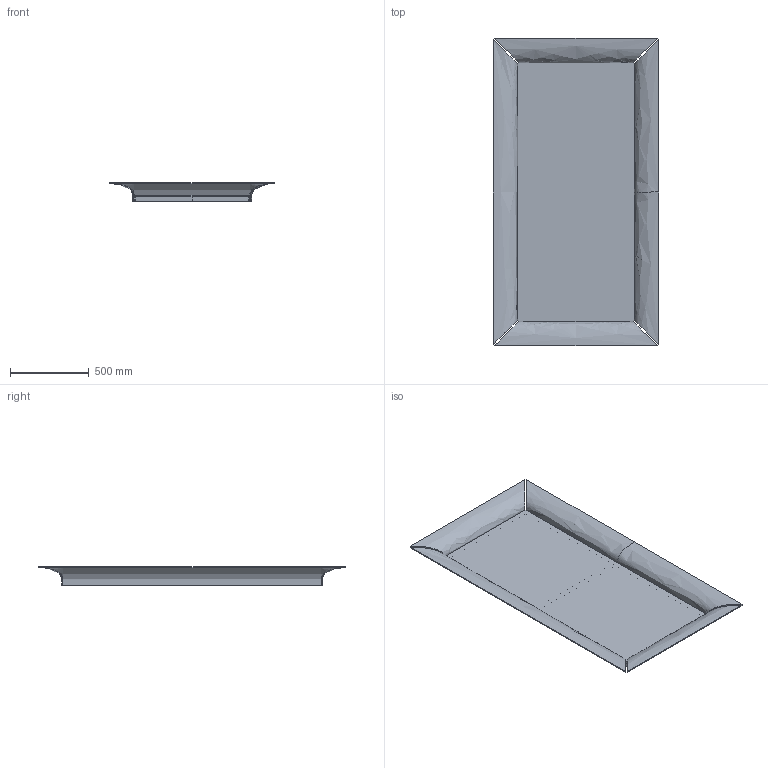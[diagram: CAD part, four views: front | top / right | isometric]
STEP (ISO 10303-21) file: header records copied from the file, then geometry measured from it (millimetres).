
FILE_DESCRIPTION(/* description */ (''),/* implementation_level */ '2;1');
FILE_NAME(/* name */ '400Sx - Caadre - 105x195',/* time_stamp */ '2010-11-02T14:23:27+01:00',/* author */ (''),/* organization */ (''),/* preprocessor_version */ 'ST-DEVELOPER v10',/* originating_system */ '',/* authorisation */ '');
FILE_SCHEMA (('CONFIG_CONTROL_DESIGN'));
Length unit declared in the file: centimetre
Products named in the file (1): 1
Bounding box: 1046 x 1946 x 119 mm (x, y, z)
Volume: 18932980.4 mm3; surface area: 5465896.1 mm2
Topology: 6 solids, 6 shells, 68 faces, 156 edges, 96 vertices
Faces by surface type: bspline 46, plane 22
Entity records: 3694 total; most frequent: CARTESIAN_POINT 2556, ORIENTED_EDGE 312, EDGE_CURVE 156, B_SPLINE_CURVE_WITH_KNOTS 156, VERTEX_POINT 96, ADVANCED_FACE 68, FACE_OUTER_BOUND 68, EDGE_LOOP 68
